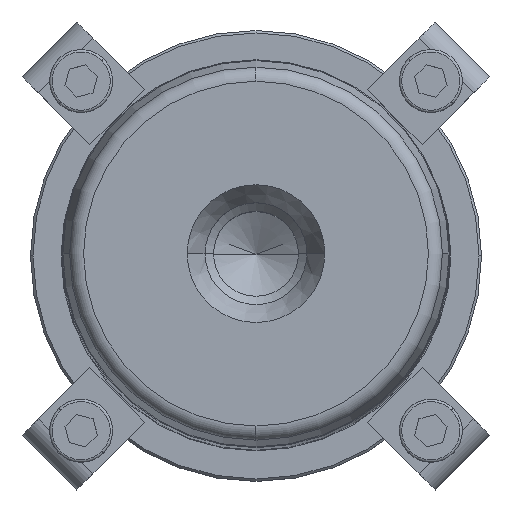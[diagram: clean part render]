
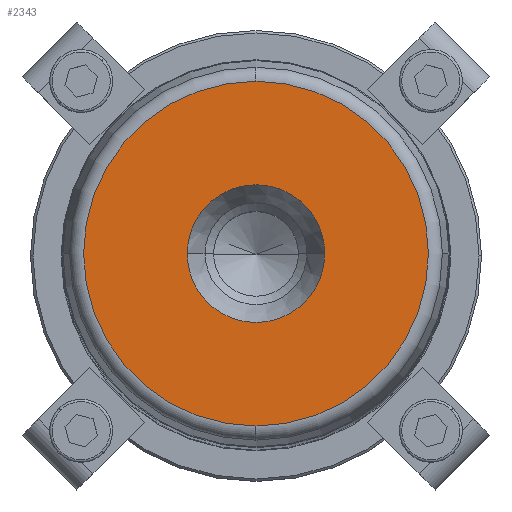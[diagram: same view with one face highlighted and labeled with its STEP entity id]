
A CAD part, top view. The second image highlights one B-rep face of the part: STEP entity #2343.
In plain terms, the highlighted planar face has unit normal (0, 0, 1).
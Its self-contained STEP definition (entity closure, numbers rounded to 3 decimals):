
#431=CARTESIAN_POINT('',(14.2,0.,280.0));
#432=VERTEX_POINT('',#431);
#439=CARTESIAN_POINT('',(-14.2,0.,280.0));
#440=VERTEX_POINT('',#439);
#441=CARTESIAN_POINT('',(0.0,0.,280.0));
#442=DIRECTION('',(0.0,0.0,1.0));
#443=DIRECTION('',(1.0,0.0,0.0));
#444=AXIS2_PLACEMENT_3D('',#441,#442,#443);
#445=CIRCLE('',#444,14.2);
#446=EDGE_CURVE('',#432,#440,#445,.T.);
#463=CARTESIAN_POINT('',(0.0,-35.554,280.0));
#464=VERTEX_POINT('',#463);
#474=CARTESIAN_POINT('',(0.,35.554,280.0));
#475=VERTEX_POINT('',#474);
#476=CARTESIAN_POINT('',(0.0,0.,280.0));
#477=DIRECTION('',(0.0,0.0,1.0));
#478=DIRECTION('',(1.0,0.0,0.0));
#479=AXIS2_PLACEMENT_3D('',#476,#477,#478);
#480=CIRCLE('',#479,35.554);
#481=EDGE_CURVE('',#475,#464,#480,.T.);
#2304=CARTESIAN_POINT('',(35.554,0.,280.0));
#2305=VERTEX_POINT('',#2304);
#2306=CARTESIAN_POINT('',(0.0,0.,280.0));
#2307=DIRECTION('',(0.0,0.0,1.0));
#2308=DIRECTION('',(1.0,0.0,0.0));
#2309=AXIS2_PLACEMENT_3D('',#2306,#2307,#2308);
#2310=CIRCLE('',#2309,35.554);
#2311=EDGE_CURVE('',#2305,#475,#2310,.T.);
#2313=CARTESIAN_POINT('',(0.0,0.,280.0));
#2314=DIRECTION('',(0.0,0.0,1.0));
#2315=DIRECTION('',(1.0,0.0,0.0));
#2316=AXIS2_PLACEMENT_3D('',#2313,#2314,#2315);
#2317=CIRCLE('',#2316,35.554);
#2318=EDGE_CURVE('',#464,#2305,#2317,.T.);
#2323=CARTESIAN_POINT('',(24.877,0.,280.0));
#2324=DIRECTION('',(0.0,0.0,1.0));
#2325=DIRECTION('',(0.0,-1.0,0.0));
#2326=AXIS2_PLACEMENT_3D('',#2323,#2324,#2325);
#2327=PLANE('',#2326);
#2328=ORIENTED_EDGE('',*,*,#2311,.T.);
#2329=ORIENTED_EDGE('',*,*,#481,.T.);
#2330=ORIENTED_EDGE('',*,*,#2318,.T.);
#2331=EDGE_LOOP('',(#2328,#2329,#2330));
#2332=FACE_OUTER_BOUND('',#2331,.T.);
#2333=ORIENTED_EDGE('',*,*,#446,.F.);
#2334=CARTESIAN_POINT('',(0.0,0.,280.0));
#2335=DIRECTION('',(0.0,0.0,1.0));
#2336=DIRECTION('',(1.0,0.0,0.0));
#2337=AXIS2_PLACEMENT_3D('',#2334,#2335,#2336);
#2338=CIRCLE('',#2337,14.2);
#2339=EDGE_CURVE('',#440,#432,#2338,.T.);
#2340=ORIENTED_EDGE('',*,*,#2339,.F.);
#2341=EDGE_LOOP('',(#2333,#2340));
#2342=FACE_BOUND('',#2341,.T.);
#2343=ADVANCED_FACE('',(#2332,#2342),#2327,.T.);
